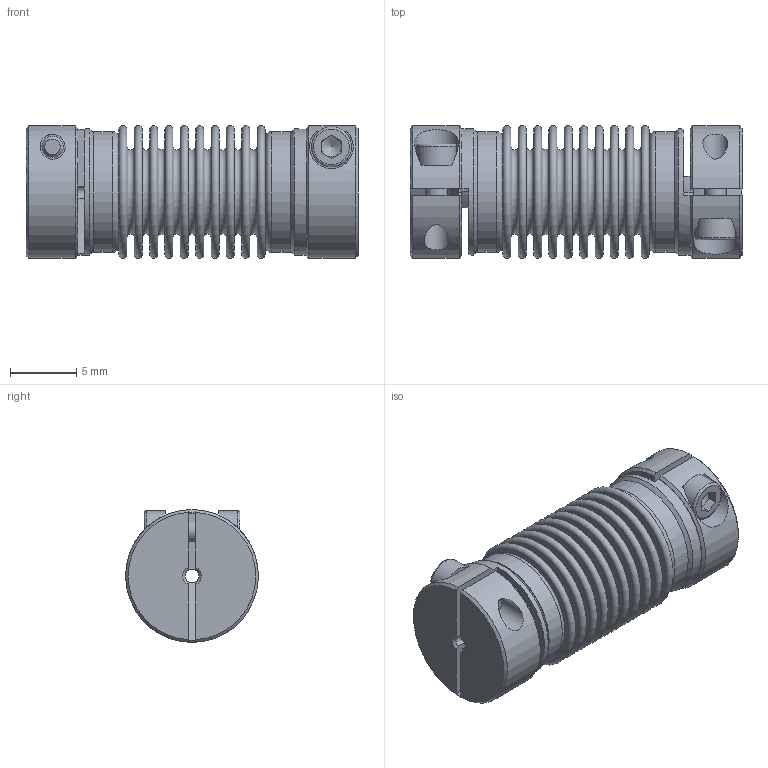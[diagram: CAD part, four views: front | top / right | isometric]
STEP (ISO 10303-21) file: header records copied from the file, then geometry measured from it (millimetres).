
FILE_DESCRIPTION(/* description */ ('STEP AP203'),/* implementation_level */ '2;1');
FILE_NAME(/* name */ 'KB2-1-25-1-1',/* time_stamp */ '2022-09-12T12:40:48+02:00',/* author */ ('License CC BY-ND 4.0'),/* organization */ ('CADENAS'),/* preprocessor_version */ 'ST-DEVELOPER v18.102',/* originating_system */ 'PARTsolutions',/* authorisation */ ' ');
FILE_SCHEMA (('CONFIG_CONTROL_DESIGN'));
Length unit declared in the file: millimetre
Products named in the file (1): KB2-1-25-1-1
Bounding box: 25 x 10 x 10 mm (x, y, z)
Volume: 1029.7 mm3; surface area: 3218.8 mm2
Topology: 1 solids, 1 shells, 176 faces, 359 edges, 232 vertices
Faces by surface type: plane 93, torus 42, cylinder 26, cone 15
Full cylindrical faces by diameter (mm): 1 x2, 1.6 x2, 1.89 x4, 3 x2, 6.86 x2, 9.1 x2, 9.5 x2
Entity records: 4246 total; most frequent: CARTESIAN_POINT 787, DIRECTION 756, ORIENTED_EDGE 548, AXIS2_PLACEMENT_3D 335, FACE_BOUND 294, EDGE_LOOP 292, EDGE_CURVE 274, VERTEX_POINT 216
